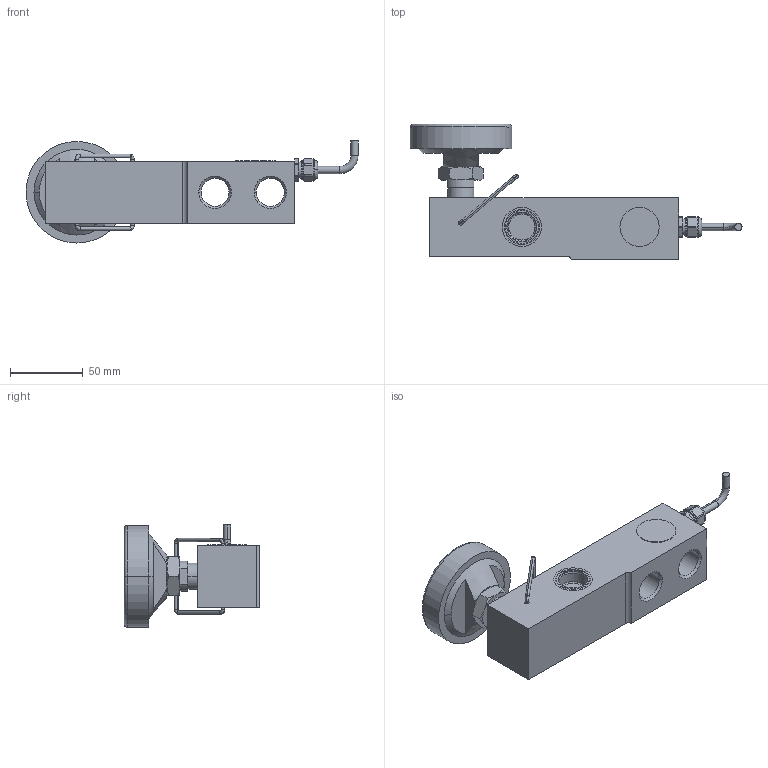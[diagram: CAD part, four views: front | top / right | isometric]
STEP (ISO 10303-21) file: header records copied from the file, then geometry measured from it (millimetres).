
FILE_DESCRIPTION((''),'2;1');
FILE_NAME('72208675-0745A-4400KG_SW0001','2014-07-28T',('wang-379'),(''),'PRO/ENGINEER BY PARAMETRIC TECHNOLOGY CORPORATION, 2013320','PRO/ENGINEER BY PARAMETRIC TECHNOLOGY CORPORATION, 2013320','');
FILE_SCHEMA(('CONFIG_CONTROL_DESIGN'));
Length unit declared in the file: millimetre
Products named in the file (1): 72208675-0745A-4400KG_SW0001
Bounding box: 228.75 x 93.54 x 70.34 mm (x, y, z)
Volume: 355842.6 mm3; surface area: 59290.7 mm2
Topology: 3 solids, 3 shells, 215 faces, 570 edges, 373 vertices
Faces by surface type: plane 71, cylinder 66, cone 39, torus 37, sphere 2
Entity records: 7430 total; most frequent: CARTESIAN_POINT 1889, DIRECTION 1229, ORIENTED_EDGE 1136, EDGE_CURVE 568, AXIS2_PLACEMENT_3D 516, VERTEX_POINT 373, CIRCLE 301, EDGE_LOOP 237
